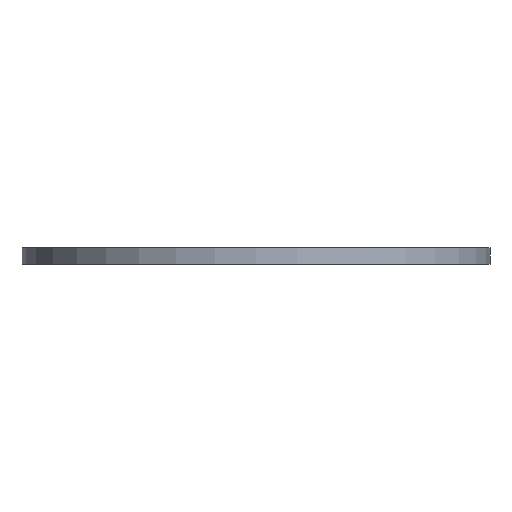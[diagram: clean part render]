
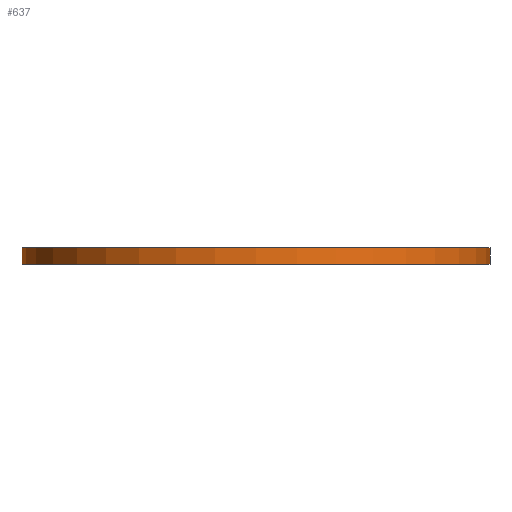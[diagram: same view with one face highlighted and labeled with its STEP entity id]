
A CAD part, front view. The second image highlights one B-rep face of the part: STEP entity #637.
In plain terms, the highlighted cylindrical face has radius 360 mm (diameter 720 mm), a full revolution.
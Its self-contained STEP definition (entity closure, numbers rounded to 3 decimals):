
#80=FACE_OUTER_BOUND('',#104,.T.);
#104=EDGE_LOOP('',(#521,#522,#523,#524,#525,#526));
#170=LINE('',#1132,#192);
#192=VECTOR('',#948,360.);
#256=CIRCLE('',#745,360.);
#257=CIRCLE('',#746,360.);
#258=CIRCLE('',#747,360.);
#259=CIRCLE('',#748,360.);
#323=VERTEX_POINT('',#1127);
#324=VERTEX_POINT('',#1128);
#325=VERTEX_POINT('',#1131);
#326=VERTEX_POINT('',#1133);
#411=EDGE_CURVE('',#323,#324,#256,.T.);
#412=EDGE_CURVE('',#324,#323,#257,.T.);
#413=EDGE_CURVE('',#324,#325,#170,.T.);
#414=EDGE_CURVE('',#325,#326,#258,.T.);
#415=EDGE_CURVE('',#326,#325,#259,.T.);
#521=ORIENTED_EDGE('',*,*,#411,.F.);
#522=ORIENTED_EDGE('',*,*,#412,.F.);
#523=ORIENTED_EDGE('',*,*,#413,.T.);
#524=ORIENTED_EDGE('',*,*,#414,.T.);
#525=ORIENTED_EDGE('',*,*,#415,.T.);
#526=ORIENTED_EDGE('',*,*,#413,.F.);
#615=CYLINDRICAL_SURFACE('',#744,360.);
#637=ADVANCED_FACE('',(#80),#615,.T.);
#744=AXIS2_PLACEMENT_3D('',#1126,#942,#943);
#745=AXIS2_PLACEMENT_3D('',#1129,#944,#945);
#746=AXIS2_PLACEMENT_3D('',#1130,#946,#947);
#747=AXIS2_PLACEMENT_3D('',#1134,#949,#950);
#748=AXIS2_PLACEMENT_3D('',#1135,#951,#952);
#942=DIRECTION('center_axis',(0.,0.,1.));
#943=DIRECTION('ref_axis',(1.,0.,0.));
#944=DIRECTION('center_axis',(0.,0.,1.));
#945=DIRECTION('ref_axis',(1.,0.,0.));
#946=DIRECTION('center_axis',(0.,0.,1.));
#947=DIRECTION('ref_axis',(1.,0.,0.));
#948=DIRECTION('',(0.,0.,-1.));
#949=DIRECTION('center_axis',(0.,0.,1.));
#950=DIRECTION('ref_axis',(1.,0.,0.));
#951=DIRECTION('center_axis',(0.,0.,1.));
#952=DIRECTION('ref_axis',(1.,0.,0.));
#1126=CARTESIAN_POINT('Origin',(0.,0.,0.));
#1127=CARTESIAN_POINT('',(360.,0.,26.));
#1128=CARTESIAN_POINT('',(-360.,0.,26.));
#1129=CARTESIAN_POINT('Origin',(0.,0.,26.));
#1130=CARTESIAN_POINT('Origin',(0.,0.,26.));
#1131=CARTESIAN_POINT('',(-360.,0.,0.));
#1132=CARTESIAN_POINT('',(-360.,0.,0.));
#1133=CARTESIAN_POINT('',(360.,0.,0.));
#1134=CARTESIAN_POINT('Origin',(0.,0.,0.));
#1135=CARTESIAN_POINT('Origin',(0.,0.,0.));
